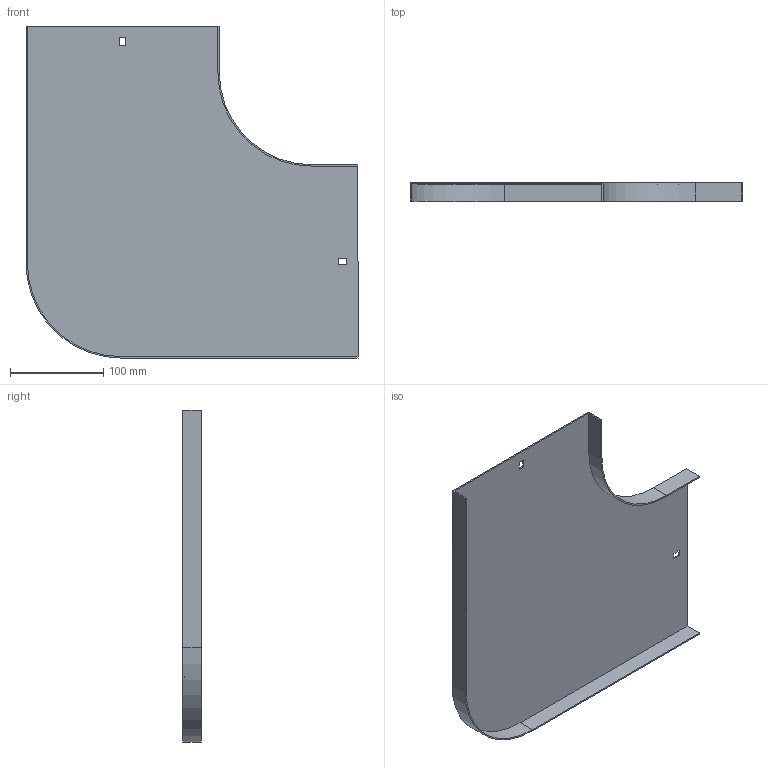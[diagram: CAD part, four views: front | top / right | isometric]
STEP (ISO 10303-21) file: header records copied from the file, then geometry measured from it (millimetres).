
FILE_DESCRIPTION (( 'STEP AP214' ), '1' );
FILE_NAME ('10N1R200.step', '2025-02-21T09:21:46', ( '' ), ( '' ), 'SwSTEP 2.0', 'SolidWorks 2023', '' );
FILE_SCHEMA (( 'AUTOMOTIVE_DESIGN' ));
Length unit declared in the file: millimetre
Products named in the file (1): 10N1R200
Bounding box: 355.5 x 20 x 355.5 mm (x, y, z)
Volume: 181713.3 mm3; surface area: 244492.6 mm2
Topology: 1 solids, 1 shells, 26 faces, 72 edges, 48 vertices
Faces by surface type: plane 22, cylinder 4
Entity records: 855 total; most frequent: CARTESIAN_POINT 147, ORIENTED_EDGE 144, DIRECTION 134, EDGE_CURVE 72, LINE 64, VECTOR 64, VERTEX_POINT 48, AXIS2_PLACEMENT_3D 35
